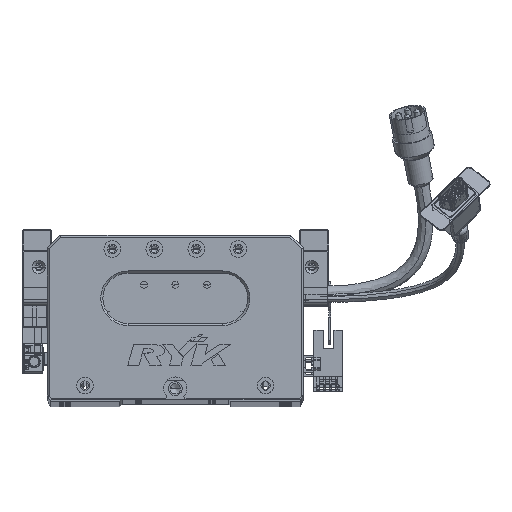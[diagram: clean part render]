
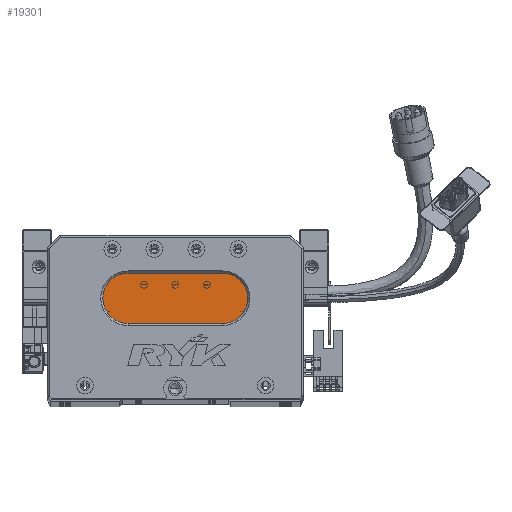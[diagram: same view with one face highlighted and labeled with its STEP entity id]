
A CAD part, top view. The second image highlights one B-rep face of the part: STEP entity #19301.
In plain terms, the highlighted planar face has unit normal (0, 0, 1) as drawn and (0, 0, -1) by its records, which use the part's own axes.
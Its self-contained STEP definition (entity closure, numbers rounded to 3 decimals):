
#1858 = VERTEX_POINT ( 'NONE', #6024 ) ;
#2725 = EDGE_CURVE ( 'NONE', #90478, #72887, #8053, .T. ) ;
#5790 = VECTOR ( 'NONE', #61614, 1000. ) ;
#5891 = VECTOR ( 'NONE', #63217, 1000. ) ;
#6024 = CARTESIAN_POINT ( 'NONE',  ( 26.5, 48., 13. ) ) ;
#8053 = LINE ( 'NONE', #24771, #5790 ) ;
#9579 = AXIS2_PLACEMENT_3D ( 'NONE', #87975, #23735, #60564 ) ;
#13395 = VERTEX_POINT ( 'NONE', #41565 ) ;
#14853 = CARTESIAN_POINT ( 'NONE',  ( 83.5, 60., 13. ) ) ;
#18562 = AXIS2_PLACEMENT_3D ( 'NONE', #39015, #47553, #25343 ) ;
#19301 = ADVANCED_FACE ( 'NONE', ( #36991 ), #67153, .T. ) ;
#20441 = CIRCLE ( 'NONE', #60317, 12. ) ;
#20777 = EDGE_LOOP ( 'NONE', ( #83314, #48387, #52649, #63563, #53159 ) ) ;
#23735 = DIRECTION ( 'NONE',  ( 0., 0., -1. ) ) ;
#24771 = CARTESIAN_POINT ( 'NONE',  ( 83.5, 60., 13. ) ) ;
#25343 = DIRECTION ( 'NONE',  ( -1., 0., 0. ) ) ;
#35923 = EDGE_CURVE ( 'NONE', #37910, #1858, #62501, .T. ) ;
#36991 = FACE_OUTER_BOUND ( 'NONE', #20777, .T. ) ;
#37910 = VERTEX_POINT ( 'NONE', #92441 ) ;
#39015 = CARTESIAN_POINT ( 'NONE',  ( 38.5, 48., 13. ) ) ;
#41565 = CARTESIAN_POINT ( 'NONE',  ( 83.5, 36., 13. ) ) ;
#46769 = EDGE_CURVE ( 'NONE', #13395, #37910, #59200, .T. ) ;
#47074 = EDGE_CURVE ( 'NONE', #1858, #90478, #83920, .T. ) ;
#47553 = DIRECTION ( 'NONE',  ( 0., 0., -1. ) ) ;
#47751 = CARTESIAN_POINT ( 'NONE',  ( 38.5, 48., 13. ) ) ;
#48387 = ORIENTED_EDGE ( 'NONE', *, *, #46769, .T. ) ;
#52649 = ORIENTED_EDGE ( 'NONE', *, *, #35923, .T. ) ;
#53159 = ORIENTED_EDGE ( 'NONE', *, *, #2725, .T. ) ;
#58114 = AXIS2_PLACEMENT_3D ( 'NONE', #47751, #62681, #62064 ) ;
#59200 = LINE ( 'NONE', #71392, #5891 ) ;
#60317 = AXIS2_PLACEMENT_3D ( 'NONE', #92754, #85485, #70425 ) ;
#60564 = DIRECTION ( 'NONE',  ( -1., 0., 0. ) ) ;
#61614 = DIRECTION ( 'NONE',  ( 1., 0., 0. ) ) ;
#61765 = CARTESIAN_POINT ( 'NONE',  ( 38.5, 60., 13. ) ) ;
#62064 = DIRECTION ( 'NONE',  ( -1., 0., 0. ) ) ;
#62501 = CIRCLE ( 'NONE', #58114, 12. ) ;
#62681 = DIRECTION ( 'NONE',  ( 0., 0., -1. ) ) ;
#63217 = DIRECTION ( 'NONE',  ( -1., 0., 0. ) ) ;
#63563 = ORIENTED_EDGE ( 'NONE', *, *, #47074, .T. ) ;
#67153 = PLANE ( 'NONE',  #9579 ) ;
#70425 = DIRECTION ( 'NONE',  ( -1., 0., 0. ) ) ;
#71392 = CARTESIAN_POINT ( 'NONE',  ( 83.5, 36., 13. ) ) ;
#72887 = VERTEX_POINT ( 'NONE', #14853 ) ;
#78357 = EDGE_CURVE ( 'NONE', #72887, #13395, #20441, .T. ) ;
#83314 = ORIENTED_EDGE ( 'NONE', *, *, #78357, .T. ) ;
#83920 = CIRCLE ( 'NONE', #18562, 12. ) ;
#85485 = DIRECTION ( 'NONE',  ( 0., 0., -1. ) ) ;
#87975 = CARTESIAN_POINT ( 'NONE',  ( 83.5, 48., 13. ) ) ;
#90478 = VERTEX_POINT ( 'NONE', #61765 ) ;
#92441 = CARTESIAN_POINT ( 'NONE',  ( 38.5, 36., 13. ) ) ;
#92754 = CARTESIAN_POINT ( 'NONE',  ( 83.5, 48., 13. ) ) ;
